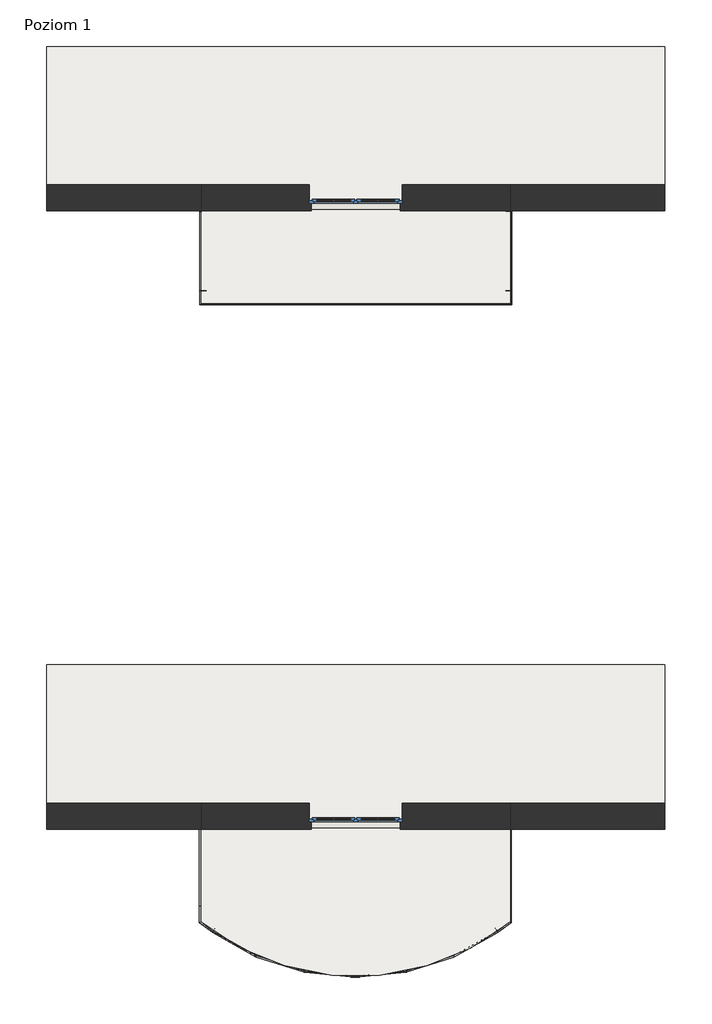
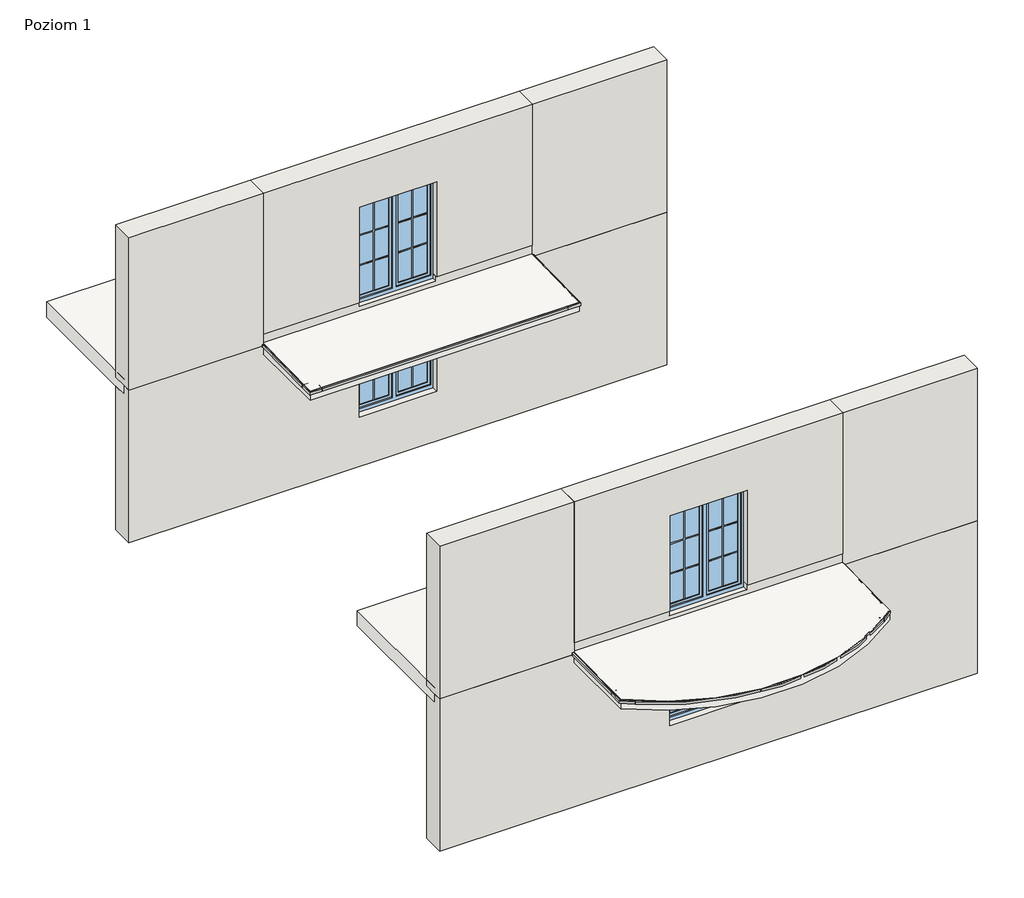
# One storey, part 1 of 4: 10 walls, 9 proxies, 4 slabs, 4 windows.
"""IFC4 building model written with IfcOpenShell, lengths in millimetres."""

from ifc_helpers import new_model, si_unit, frame, origin, place, context, project, spatial, circle_curve, ellipse_curve, faceted_brep, transform, mapped, element, save
from ifc_brep_helpers import plane_surface, cylinder_surface, advanced_brep
from components import generic_models_3133368d, generic_models_36d00aa6, k301_e0689195, k301_5b34aea1, k301_a9cddecb, k301_75ea2959, k301_849724ee, k301_899016ea, window_150x150_51b7f79a, window_150x200_12b14935

model = new_model("IFC4")

# Units and contexts
model_context = context("Model", 3, world=origin())
ifc_project = project(units=[si_unit("LENGTHUNIT", "METRE", prefix="MILLI")], contexts=[model_context])

# Site, building, storey
site = spatial("IfcSite", under=ifc_project)
building = spatial("IfcBuilding", under=site)
storey = spatial("IfcBuildingStorey", under=building, Name="Poziom 1", Elevation=0.0)

# Proxies
placement = place(None, origin())
generic_models_shape = generic_models_3133368d(model_context)
element("IfcBuildingElementProxy", 1, Name="Odbojniki - OPK301 : Odbojniki - OPK301", ObjectType="Odbojniki - OPK301 : Odbojniki - OPK301", at=placement, inside=storey, context=model_context, shape_type="MappedRepresentation", body=[
    mapped(generic_models_shape, transform((-114209.4276493, 46221.6670986, -138.1354372), x_axis=(0.0, -0.9998020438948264, -0.019896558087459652), y_axis=(1.0, 0.0, 0.0), z_axis=(0.0, -0.01989655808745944, 0.9998020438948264))),
])
element("IfcBuildingElementProxy", 2, Name="Odbojniki - OPK301 : Odbojniki - OPK301", ObjectType="Odbojniki - OPK301 : Odbojniki - OPK301", at=placement, inside=storey, context=model_context, shape_type="MappedRepresentation", body=[
    mapped(generic_models_shape, transform((-114217.7232393, 36230.897423, -137.1681948), x_axis=(-1.9590584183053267e-05, -0.9999247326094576, -0.01226901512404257), y_axis=(0.9999999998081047, -1.9589109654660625e-05, -2.403571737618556e-07), z_axis=(0.0, -0.012269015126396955, 0.9999247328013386))),
])
generic_models_2_shape = generic_models_36d00aa6(model_context)
element("IfcBuildingElementProxy", 3, Name="Odbojniki - OPK301 : Odbojniki - OPK301", ObjectType="Odbojniki - OPK301 : Odbojniki - OPK301", at=placement, inside=storey, context=model_context, shape_type="MappedRepresentation", body=[
    mapped(generic_models_2_shape, transform((-109225.3654711, 46226.7675737, -138.0339352), x_axis=(0.0, -0.9998020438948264, -0.01989655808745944), y_axis=(1.0, 0.0, 0.0), z_axis=(0.0, -0.01989655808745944, 0.9998020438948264))),
])
k301_shape = k301_e0689195(model_context)
element("IfcBuildingElementProxy", 4, Name="K301 Profil okapowy prosty : K301", ObjectType="K301 Profil okapowy prosty : K301", at=placement, inside=storey, context=model_context, shape_type="MappedRepresentation", body=[
    mapped(k301_shape, transform((-114216.6154711, 44731.2029699, -114.5998812), x_axis=(1.0, 0.0, 0.0), y_axis=(0.0, 0.9998020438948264, 0.01989655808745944), z_axis=(0.0, -0.01989655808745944, 0.9998020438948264))),
])
k301_2_shape = k301_5b34aea1(model_context)
element("IfcBuildingElementProxy", 5, Name="K301 Profil okapowy prosty : K301", ObjectType="K301 Profil okapowy prosty : K301", at=placement, inside=storey, context=model_context, shape_type="MappedRepresentation", body=[
    mapped(k301_2_shape, transform((-114218.1776493, 46220.6088802, -84.9599626), x_axis=(0.0, -0.9998020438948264, -0.019896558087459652), y_axis=(1.0, 0.0, 0.0), z_axis=(0.0, -0.01989655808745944, 0.9998020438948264))),
])
k301_3_shape = k301_a9cddecb(model_context)
element("IfcBuildingElementProxy", 6, Name="K301 Profil okapowy prosty : K301", ObjectType="K301 Profil okapowy prosty : K301", at=placement, inside=storey, context=model_context, shape_type="MappedRepresentation", body=[
    mapped(k301_3_shape, transform((-109216.6154711, 46225.7093553, -84.8584606), x_axis=(0.0, -0.9998020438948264, -0.01989655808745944), y_axis=(1.0, 0.0, 0.0), z_axis=(0.0, -0.01989655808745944, 0.9998020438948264))),
])
k301_4_shape = k301_75ea2959(model_context)
element("IfcBuildingElementProxy", 7, Name="K301 Profil okapowy prosty : K301", ObjectType="K301 Profil okapowy prosty : K301", at=placement, inside=storey, context=model_context, shape_type="MappedRepresentation", body=[
    mapped(k301_4_shape, transform((-114226.4732393, 36230.2450545, -83.9861928), x_axis=(-1.9590584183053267e-05, -0.9999247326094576, -0.01226901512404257), y_axis=(0.9999999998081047, -1.9589109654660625e-05, -2.403571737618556e-07), z_axis=(0.0, -0.012269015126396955, 0.9999247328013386))),
])
k301_5_shape = k301_849724ee(model_context)
element("IfcBuildingElementProxy", 8, Name="K301 Profil okapowy prosty : K301", ObjectType="K301 Profil okapowy prosty : K301", at=placement, inside=storey, context=model_context, shape_type="MappedRepresentation", body=[
    mapped(k301_5_shape, transform((-109227.8996711, 36230.2685935, -84.2807514), x_axis=(-0.00010422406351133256, -0.9999247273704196, -0.012269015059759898), y_axis=(0.9999999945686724, -0.00010421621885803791, -1.2787266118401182e-06), z_axis=(0.0, -0.012269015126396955, 0.9999247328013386))),
])
k301_6_shape = k301_899016ea(model_context)
element("IfcBuildingElementProxy", 9, Name="K301 Profil okapowy łukowy : K301", ObjectType="K301 Profil okapowy łukowy : K301", at=placement, inside=storey, context=model_context, shape_type="MappedRepresentation", body=[
    mapped(k301_6_shape, transform((-114227.6050845, 34731.1980807, -102.3054181), x_axis=(0.9999999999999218, 3.9556346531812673e-07, 4.853539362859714e-09), y_axis=(-3.955932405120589e-07, 0.9999247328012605, 0.012269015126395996), z_axis=(0.0, -0.012269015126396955, 0.9999247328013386))),
])

# Slabs
element("IfcSlab", 10, ObjectType="Balkon - posadzka ceramiczna", at=placement, inside=storey, context=model_context, shape_type="Brep", body=[
    faceted_brep([(-114218.1776493, 44731.191032, -290.0), (-114218.1776493, 46231.191032, -290.0), (-114218.1776493, 46339.191032, -290.0), (-109218.1776493, 46339.191032, -290.0), (-109218.1776493, 46231.191032, -290.0), (-109218.1776493, 44731.191032, -290.0), (-114218.1776493, 44731.191032, -114.0), (-114218.1776493, 46253.191032, -83.7114428), (-114218.1776493, 46339.191032, -82.0), (-114218.1776493, 46339.191032, -125.0), (-109218.1776493, 46339.191032, -82.0), (-109218.1776493, 46339.191032, -125.0), (-109218.1776493, 44731.191032, -114.0), (-109218.1776493, 46253.191032, -83.7114428)], [[[0, 1, 2, 3, 4, 5]], [[2, 1, 0, 6, 7, 8, 9]], [[3, 2, 9, 8, 10, 11]], [[0, 5, 12, 6]], [[5, 4, 3, 11, 10, 13, 12]], [[12, 13, 10, 8, 7, 6]]]),
])
element("IfcSlab", 11, ObjectType="Balkon - posadzka ceramiczna", at=placement, inside=storey, context=model_context, shape_type="AdvancedBrep", body=[
    advanced_brep(
    [(-114218.1776493, 36339.191032, -290.0), (-109218.1776493, 36339.191032, -290.0), (-109218.1776493, 36231.191032, -290.0), (-109218.1776493, 34731.191032, -290.0), (-114218.1776493, 34731.191032, -290.0), (-114218.1776493, 36231.191032, -290.0), (-114218.1776493, 36339.191032, -82.0), (-114218.1776493, 36339.191032, -125.0), (-114218.1776493, 34731.191032, -101.7300613), (-114218.1776493, 36253.191032, -83.0552147), (-109218.1776493, 36339.191032, -82.0), (-109218.1776493, 36339.191032, -125.0), (-109218.1776493, 36253.191032, -83.0552147), (-109218.1776493, 34731.191032, -101.7300613)],
    [
        (0, 1),
        (1, 2),
        (2, 3),
        (3, 4, circle_curve(frame((-111718.1776493, 37853.6900312, -290.0), z_axis=(0.0, 0.0, -1.0), x_axis=(1.0, 0.0, 0.0)), 4000.0)),
        (4, 5),
        (5, 0),
        (6, 7),
        (7, 0),
        (4, 8),
        (8, 9),
        (9, 6),
        (6, 10),
        (10, 11),
        (11, 1),
        (10, 12),
        (12, 13),
        (13, 3),
        (8, 13, ellipse_curve(frame((-111718.1776493, 37853.6900312, -63.4171902), z_axis=(0.0, -0.012269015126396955, 0.9999247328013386), x_axis=(0.0, -0.9999247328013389, -0.012269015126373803)), 4000.3010915, 4000.0)),
    ],
    [
        plane_surface(frame((-114218.1776493, 36339.191032, -290.0), z_axis=(0.0, 0.0, -1.0), x_axis=(0.0, 1.0, 0.0))),
        plane_surface(frame((-114218.1776493, 33731.191032, -290.0), z_axis=(-1.0, 0.0, 0.0), x_axis=(0.0, 0.0, 1.0))),
        plane_surface(frame((-114218.1776493, 36339.191032, -290.0), z_axis=(0.0, 1.0, 0.0), x_axis=(0.0, 0.0, 1.0))),
        plane_surface(frame((-109218.1776493, 36339.191032, -290.0), z_axis=(1.0, 0.0, 0.0), x_axis=(0.0, 0.0, 1.0))),
        plane_surface(frame((-111718.1776493, 35035.191032, -98.0), z_axis=(0.0, -0.012269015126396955, 0.9999247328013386), x_axis=(-1.0, 0.0, 0.0))),
        cylinder_surface(frame((-111718.1776493, 37853.6900312, -594.8), z_axis=(0.0, 0.0, -1.0), x_axis=(1.0, 0.0, 0.0)), 4000.0),
    ],
    [
        (0, [[1, 2, 3, 4, 5, 6]]),
        (1, [[7, 8, -6, -5, 9, 10, 11]]),
        (2, [[-1, -8, -7, 12, 13, 14]]),
        (3, [[-14, -13, 15, 16, 17, -3, -2]]),
        (4, [[-12, -11, -10, 18, -16, -15]]),
        (5, [[-4, -17, -18, -9]]),
    ],
),
])
element("IfcSlab", 12, ObjectType="Strop", at=placement, inside=storey, context=model_context, shape_type="Brep", body=[
    faceted_brep([(-106718.1776493, 46386.191032, -300.0), (-116718.1776493, 46386.191032, -300.0), (-116718.1776493, 46651.191032, -300.0), (-116718.1776493, 48886.191032, -300.0), (-106718.1776493, 48886.191032, -300.0), (-106718.1776493, 46651.191032, -300.0), (-106718.1776493, 46386.191032, 0.0), (-106718.1776493, 48886.191032, 0.0), (-116718.1776493, 48886.191032, 0.0), (-116718.1776493, 46386.191032, 0.0), (-114218.1776493, 46386.191032, 0.0), (-112468.1776493, 46386.191032, 0.0), (-110968.1776493, 46386.191032, 0.0), (-109218.1776493, 46386.191032, 0.0), (-106718.1776493, 46386.191032, -125.0), (-116718.1776493, 46386.191032, -125.0)], [[[0, 1, 2, 3, 4, 5]], [[6, 7, 8, 9, 10, 11, 12, 13]], [[1, 0, 14, 6, 13, 12, 11, 10, 9, 15]], [[3, 2, 1, 15, 9, 8]], [[4, 3, 8, 7]], [[0, 5, 4, 7, 6, 14]]]),
])
element("IfcSlab", 13, ObjectType="Strop", at=placement, inside=storey, context=model_context, shape_type="Brep", body=[
    faceted_brep([(-106718.1776493, 36386.191032, -300.0), (-116718.1776493, 36386.191032, -300.0), (-116718.1776493, 36651.191032, -300.0), (-116718.1776493, 38886.191032, -300.0), (-106718.1776493, 38886.191032, -300.0), (-106718.1776493, 36651.191032, -300.0), (-106718.1776493, 36386.191032, 0.0), (-106718.1776493, 38886.191032, 0.0), (-116718.1776493, 38886.191032, 0.0), (-116718.1776493, 36386.191032, 0.0), (-114218.1776493, 36386.191032, 0.0), (-112468.1776493, 36386.191032, 0.0), (-110968.1776493, 36386.191032, 0.0), (-109218.1776493, 36386.191032, 0.0), (-106718.1776493, 36386.191032, -125.0), (-116718.1776493, 36386.191032, -125.0)], [[[0, 1, 2, 3, 4, 5]], [[6, 7, 8, 9, 10, 11, 12, 13]], [[1, 0, 14, 6, 13, 12, 11, 10, 9, 15]], [[3, 2, 1, 15, 9, 8]], [[4, 3, 8, 7]], [[0, 5, 4, 7, 6, 14]]]),
])

# Walls
element("IfcWall", 14, ObjectType="Porotherm P+W 25 + o15 + t", at=placement, inside=storey, context=model_context, shape_type="Brep", body=[
    faceted_brep([(-116718.1776493, 46231.191032, -3125.0), (-106718.1776493, 46231.191032, -3125.0), (-106718.1776493, 46231.191032, -125.0), (-109218.1776493, 46231.191032, -125.0), (-109218.1776493, 46231.191032, -290.0), (-114218.1776493, 46231.191032, -290.0), (-114218.1776493, 46231.191032, -125.0), (-116718.1776493, 46231.191032, -125.0), (-110998.1776493, 46231.191032, -680.0), (-110998.1776493, 46231.191032, -2150.0), (-112438.1776493, 46231.191032, -2150.0), (-112438.1776493, 46231.191032, -680.0), (-106718.1776493, 46651.191032, -3125.0), (-116718.1776493, 46651.191032, -3125.0), (-116718.1776493, 46651.191032, -300.0), (-106718.1776493, 46651.191032, -300.0), (-110968.1776493, 46651.191032, -2150.0), (-110968.1776493, 46651.191032, -650.0), (-112468.1776493, 46651.191032, -650.0), (-112468.1776493, 46651.191032, -2150.0), (-106718.1776493, 46386.191032, -300.0), (-106718.1776493, 46386.191032, -125.0), (-109218.1776493, 46386.191032, -125.0), (-114218.1776493, 46386.191032, -125.0), (-116718.1776493, 46386.191032, -125.0), (-114218.1776493, 46339.191032, -125.0), (-109218.1776493, 46339.191032, -125.0), (-116718.1776493, 46386.191032, -300.0), (-110968.1776493, 46351.191032, -650.0), (-110968.1776493, 46351.191032, -2150.0), (-110998.1776493, 46351.191032, -680.0), (-110998.1776493, 46351.191032, -2150.0), (-109218.1776493, 46339.191032, -290.0), (-114218.1776493, 46339.191032, -290.0), (-112468.1776493, 46351.191032, -650.0), (-112468.1776493, 46351.191032, -2150.0), (-112438.1776493, 46351.191032, -2150.0), (-112438.1776493, 46351.191032, -680.0)], [[[0, 1, 2, 3, 4, 5, 6, 7], [8, 9, 10, 11]], [[12, 13, 14, 15], [16, 17, 18, 19]], [[1, 0, 13, 12]], [[2, 1, 12, 15, 20, 21]], [[2, 21, 22, 23, 24, 7, 6, 25, 26, 3]], [[0, 7, 24, 27, 14, 13]], [[28, 17, 16, 29]], [[8, 30, 31, 9]], [[27, 20, 15, 14]], [[20, 27, 24, 23, 22, 21]], [[32, 33, 5, 4]], [[5, 33, 25, 6]], [[33, 32, 26, 25]], [[32, 4, 3, 26]], [[17, 28, 34, 18]], [[29, 16, 19, 35, 36, 10, 9, 31]], [[34, 28, 29, 31, 30, 37, 36, 35]], [[34, 35, 19, 18]], [[30, 8, 11, 37]], [[10, 36, 37, 11]]]),
])
element("IfcWall", 15, ObjectType="Porotherm P+W 25 + o15 + t", at=placement, inside=storey, context=model_context, shape_type="Brep", body=[
    faceted_brep([(-116718.1776493, 46231.191032, -125.0), (-114218.1776493, 46231.191032, -125.0), (-114218.1776493, 46231.191032, 100.0), (-114218.1776493, 46231.191032, 2875.0), (-116718.1776493, 46231.191032, 2875.0), (-116718.1776493, 46651.191032, -125.0), (-116718.1776493, 46651.191032, 2875.0), (-114218.1776493, 46651.191032, 2875.0), (-114218.1776493, 46651.191032, 100.0), (-114218.1776493, 46651.191032, 0.0), (-114218.1776493, 46651.191032, -125.0), (-116718.1776493, 46386.191032, -125.0), (-114218.1776493, 46386.191032, -125.0), (-114218.1776493, 46339.191032, -125.0)], [[[0, 1, 2, 3, 4]], [[5, 6, 7, 8, 9, 10]], [[1, 0, 11, 5, 10, 12, 13]], [[4, 3, 7, 6]], [[0, 4, 6, 5, 11]], [[1, 13, 12, 10, 9, 8, 7, 3, 2]]]),
])
element("IfcWall", 16, ObjectType="Porotherm P+W 25 + o15 + t", at=placement, inside=storey, context=model_context, shape_type="Brep", body=[
    faceted_brep([(-109218.1776493, 46231.191032, 2875.0), (-109218.1776493, 46231.191032, 100.0), (-109218.1776493, 46231.191032, -125.0), (-106718.1776493, 46231.191032, -125.0), (-106718.1776493, 46231.191032, 2875.0), (-109218.1776493, 46651.191032, -125.0), (-109218.1776493, 46651.191032, 0.0), (-109218.1776493, 46651.191032, 100.0), (-109218.1776493, 46651.191032, 2875.0), (-106718.1776493, 46651.191032, 2875.0), (-106718.1776493, 46651.191032, -125.0), (-109218.1776493, 46339.191032, -125.0), (-109218.1776493, 46386.191032, -125.0), (-106718.1776493, 46386.191032, -125.0)], [[[0, 1, 2, 3, 4]], [[5, 6, 7, 8, 9, 10]], [[3, 2, 11, 12, 5, 10, 13]], [[4, 3, 13, 10, 9]], [[0, 4, 9, 8]], [[0, 8, 7, 6, 5, 12, 11, 2, 1]]]),
])
element("IfcWall", 17, ObjectType="Porotherm P+W 25 + o12 + pł ceramiczne", at=placement, inside=storey, context=model_context, shape_type="Brep", body=[
    faceted_brep([(-109218.1776493, 46253.191032, 100.0), (-110998.1776493, 46253.191032, 100.0), (-110998.1776493, 46253.191032, 0.0), (-112438.1776493, 46253.191032, 0.0), (-112438.1776493, 46253.191032, 100.0), (-114218.1776493, 46253.191032, 100.0), (-114218.1776493, 46253.191032, -83.7114428), (-109218.1776493, 46253.191032, -83.7114428), (-114218.1776493, 46651.191032, 0.0), (-114218.1776493, 46651.191032, 100.0), (-112468.1776493, 46651.191032, 100.0), (-112468.1776493, 46651.191032, 0.0), (-109218.1776493, 46651.191032, 100.0), (-109218.1776493, 46651.191032, 0.0), (-110968.1776493, 46651.191032, 0.0), (-110968.1776493, 46651.191032, 100.0), (-114218.1776493, 46386.191032, -125.0), (-109218.1776493, 46386.191032, -125.0), (-109218.1776493, 46339.191032, -125.0), (-114218.1776493, 46339.191032, -125.0), (-109218.1776493, 46339.191032, -82.0), (-109218.1776493, 46386.191032, 0.0), (-110968.1776493, 46351.191032, 100.0), (-110998.1776493, 46351.191032, 100.0), (-112438.1776493, 46351.191032, 100.0), (-112468.1776493, 46351.191032, 100.0), (-114218.1776493, 46386.191032, 0.0), (-114218.1776493, 46339.191032, -82.0), (-112468.1776493, 46386.191032, 0.0), (-110968.1776493, 46386.191032, 0.0), (-112468.1776493, 46351.191032, 0.0), (-112438.1776493, 46351.191032, 0.0), (-110998.1776493, 46351.191032, 0.0), (-110968.1776493, 46351.191032, 0.0)], [[[0, 1, 2, 3, 4, 5, 6, 7]], [[8, 9, 10, 11]], [[12, 13, 14, 15]], [[16, 17, 18, 19]], [[12, 0, 7, 20, 18, 17, 21, 13]], [[0, 12, 15, 22, 23, 1]], [[9, 5, 4, 24, 25, 10]], [[5, 9, 8, 26, 16, 19, 27, 6]], [[8, 11, 28, 26]], [[13, 21, 29, 14]], [[17, 16, 26, 28, 29, 21]], [[20, 27, 19, 18]], [[27, 20, 7, 6]], [[30, 31, 3, 2, 32, 33, 29, 28]], [[31, 30, 25, 24]], [[33, 32, 23, 22]], [[33, 22, 15, 14, 29]], [[25, 30, 28, 11, 10]], [[32, 2, 1, 23]], [[3, 31, 24, 4]]]),
])
element("IfcWall", 18, ObjectType="Porotherm P+W 25 + o15 + t", at=placement, inside=storey, context=model_context, shape_type="Brep", body=[
    faceted_brep([(-109218.1776493, 46231.191032, 100.0), (-109218.1776493, 46231.191032, 2875.0), (-114218.1776493, 46231.191032, 2875.0), (-114218.1776493, 46231.191032, 100.0), (-112438.1776493, 46231.191032, 100.0), (-112438.1776493, 46231.191032, 1970.0), (-110998.1776493, 46231.191032, 1970.0), (-110998.1776493, 46231.191032, 100.0), (-109218.1776493, 46651.191032, 2875.0), (-109218.1776493, 46651.191032, 100.0), (-110968.1776493, 46651.191032, 100.0), (-110968.1776493, 46651.191032, 2000.0), (-112468.1776493, 46651.191032, 2000.0), (-112468.1776493, 46651.191032, 100.0), (-114218.1776493, 46651.191032, 100.0), (-114218.1776493, 46651.191032, 2875.0), (-114218.1776493, 46253.191032, 100.0), (-112468.1776493, 46351.191032, 100.0), (-112438.1776493, 46351.191032, 100.0), (-112438.1776493, 46253.191032, 100.0), (-109218.1776493, 46253.191032, 100.0), (-110998.1776493, 46253.191032, 100.0), (-110998.1776493, 46351.191032, 100.0), (-110968.1776493, 46351.191032, 100.0), (-110968.1776493, 46351.191032, 2000.0), (-110998.1776493, 46351.191032, 1970.0), (-112468.1776493, 46351.191032, 2000.0), (-112438.1776493, 46351.191032, 1970.0)], [[[0, 1, 2, 3, 4, 5, 6, 7]], [[8, 9, 10, 11, 12, 13, 14, 15]], [[3, 16, 14, 13, 17, 18, 19, 4]], [[9, 20, 0, 7, 21, 22, 23, 10]], [[1, 0, 20, 9, 8]], [[2, 1, 8, 15]], [[3, 2, 15, 14, 16]], [[24, 11, 10, 23]], [[6, 25, 22, 21, 7]], [[26, 12, 11, 24]], [[26, 24, 23, 22, 25, 27, 18, 17]], [[12, 26, 17, 13]], [[27, 25, 6, 5]], [[27, 5, 4, 19, 18]]]),
])
element("IfcWall", 19, ObjectType="Porotherm P+W 25 + o15 + t", at=placement, inside=storey, context=model_context, shape_type="Brep", body=[
    faceted_brep([(-116718.1776493, 36231.191032, -3125.0), (-106718.1776493, 36231.191032, -3125.0), (-106718.1776493, 36231.191032, -125.0), (-109218.1776493, 36231.191032, -125.0), (-109218.1776493, 36231.191032, -290.0), (-114218.1776493, 36231.191032, -290.0), (-114218.1776493, 36231.191032, -125.0), (-116718.1776493, 36231.191032, -125.0), (-110998.1776493, 36231.191032, -680.0), (-110998.1776493, 36231.191032, -2150.0), (-112438.1776493, 36231.191032, -2150.0), (-112438.1776493, 36231.191032, -680.0), (-106718.1776493, 36651.191032, -3125.0), (-116718.1776493, 36651.191032, -3125.0), (-116718.1776493, 36651.191032, -300.0), (-106718.1776493, 36651.191032, -300.0), (-110968.1776493, 36651.191032, -2150.0), (-110968.1776493, 36651.191032, -650.0), (-112468.1776493, 36651.191032, -650.0), (-112468.1776493, 36651.191032, -2150.0), (-106718.1776493, 36386.191032, -300.0), (-106718.1776493, 36386.191032, -125.0), (-109218.1776493, 36386.191032, -125.0), (-114218.1776493, 36386.191032, -125.0), (-116718.1776493, 36386.191032, -125.0), (-114218.1776493, 36339.191032, -125.0), (-109218.1776493, 36339.191032, -125.0), (-116718.1776493, 36386.191032, -300.0), (-110968.1776493, 36351.191032, -650.0), (-110968.1776493, 36351.191032, -2150.0), (-110998.1776493, 36351.191032, -680.0), (-110998.1776493, 36351.191032, -2150.0), (-109218.1776493, 36339.191032, -290.0), (-114218.1776493, 36339.191032, -290.0), (-112468.1776493, 36351.191032, -650.0), (-112468.1776493, 36351.191032, -2150.0), (-112438.1776493, 36351.191032, -2150.0), (-112438.1776493, 36351.191032, -680.0)], [[[0, 1, 2, 3, 4, 5, 6, 7], [8, 9, 10, 11]], [[12, 13, 14, 15], [16, 17, 18, 19]], [[1, 0, 13, 12]], [[2, 1, 12, 15, 20, 21]], [[2, 21, 22, 23, 24, 7, 6, 25, 26, 3]], [[0, 7, 24, 27, 14, 13]], [[28, 17, 16, 29]], [[8, 30, 31, 9]], [[27, 20, 15, 14]], [[20, 27, 24, 23, 22, 21]], [[32, 33, 5, 4]], [[5, 33, 25, 6]], [[33, 32, 26, 25]], [[32, 4, 3, 26]], [[17, 28, 34, 18]], [[29, 16, 19, 35, 36, 10, 9, 31]], [[34, 28, 29, 31, 30, 37, 36, 35]], [[34, 35, 19, 18]], [[30, 8, 11, 37]], [[10, 36, 37, 11]]]),
])
element("IfcWall", 20, ObjectType="Porotherm P+W 25 + o15 + t", at=placement, inside=storey, context=model_context, shape_type="Brep", body=[
    faceted_brep([(-116718.1776493, 36231.191032, -125.0), (-114218.1776493, 36231.191032, -125.0), (-114218.1776493, 36231.191032, 100.0), (-114218.1776493, 36231.191032, 2875.0), (-116718.1776493, 36231.191032, 2875.0), (-116718.1776493, 36651.191032, -125.0), (-116718.1776493, 36651.191032, 2875.0), (-114218.1776493, 36651.191032, 2875.0), (-114218.1776493, 36651.191032, 100.0), (-114218.1776493, 36651.191032, 0.0), (-114218.1776493, 36651.191032, -125.0), (-116718.1776493, 36386.191032, -125.0), (-114218.1776493, 36386.191032, -125.0), (-114218.1776493, 36339.191032, -125.0)], [[[0, 1, 2, 3, 4]], [[5, 6, 7, 8, 9, 10]], [[1, 0, 11, 5, 10, 12, 13]], [[4, 3, 7, 6]], [[0, 4, 6, 5, 11]], [[1, 13, 12, 10, 9, 8, 7, 3, 2]]]),
])
element("IfcWall", 21, ObjectType="Porotherm P+W 25 + o15 + t", at=placement, inside=storey, context=model_context, shape_type="Brep", body=[
    faceted_brep([(-109218.1776493, 36231.191032, 2875.0), (-109218.1776493, 36231.191032, 100.0), (-109218.1776493, 36231.191032, -125.0), (-106718.1776493, 36231.191032, -125.0), (-106718.1776493, 36231.191032, 2875.0), (-109218.1776493, 36651.191032, -125.0), (-109218.1776493, 36651.191032, 0.0), (-109218.1776493, 36651.191032, 100.0), (-109218.1776493, 36651.191032, 2875.0), (-106718.1776493, 36651.191032, 2875.0), (-106718.1776493, 36651.191032, -125.0), (-109218.1776493, 36339.191032, -125.0), (-109218.1776493, 36386.191032, -125.0), (-106718.1776493, 36386.191032, -125.0)], [[[0, 1, 2, 3, 4]], [[5, 6, 7, 8, 9, 10]], [[3, 2, 11, 12, 5, 10, 13]], [[4, 3, 13, 10, 9]], [[0, 4, 9, 8]], [[0, 8, 7, 6, 5, 12, 11, 2, 1]]]),
])
element("IfcWall", 22, ObjectType="Porotherm P+W 25 + o12 + pł ceramiczne", at=placement, inside=storey, context=model_context, shape_type="Brep", body=[
    faceted_brep([(-109218.1776493, 36253.191032, 100.0), (-110998.1776493, 36253.191032, 100.0), (-110998.1776493, 36253.191032, 0.0), (-112438.1776493, 36253.191032, 0.0), (-112438.1776493, 36253.191032, 100.0), (-114218.1776493, 36253.191032, 100.0), (-114218.1776493, 36253.191032, -83.0552147), (-109218.1776493, 36253.191032, -83.0552147), (-109218.1776493, 36651.191032, 100.0), (-109218.1776493, 36651.191032, 0.0), (-110968.1776493, 36651.191032, 0.0), (-110968.1776493, 36651.191032, 100.0), (-114218.1776493, 36651.191032, 0.0), (-114218.1776493, 36651.191032, 100.0), (-112468.1776493, 36651.191032, 100.0), (-112468.1776493, 36651.191032, 0.0), (-114218.1776493, 36386.191032, -125.0), (-109218.1776493, 36386.191032, -125.0), (-109218.1776493, 36339.191032, -125.0), (-114218.1776493, 36339.191032, -125.0), (-109218.1776493, 36339.191032, -82.0), (-109218.1776493, 36386.191032, 0.0), (-110968.1776493, 36351.191032, 100.0), (-110998.1776493, 36351.191032, 100.0), (-112438.1776493, 36351.191032, 100.0), (-112468.1776493, 36351.191032, 100.0), (-114218.1776493, 36386.191032, 0.0), (-114218.1776493, 36339.191032, -82.0), (-112468.1776493, 36386.191032, 0.0), (-110968.1776493, 36386.191032, 0.0), (-112468.1776493, 36351.191032, 0.0), (-112438.1776493, 36351.191032, 0.0), (-110998.1776493, 36351.191032, 0.0), (-110968.1776493, 36351.191032, 0.0)], [[[0, 1, 2, 3, 4, 5, 6, 7]], [[8, 9, 10, 11]], [[12, 13, 14, 15]], [[16, 17, 18, 19]], [[8, 0, 7, 20, 18, 17, 21, 9]], [[0, 8, 11, 22, 23, 1]], [[13, 5, 4, 24, 25, 14]], [[5, 13, 12, 26, 16, 19, 27, 6]], [[12, 15, 28, 26]], [[9, 21, 29, 10]], [[17, 16, 26, 28, 29, 21]], [[20, 27, 19, 18]], [[27, 20, 7, 6]], [[30, 31, 3, 2, 32, 33, 29, 28]], [[31, 30, 25, 24]], [[33, 32, 23, 22]], [[33, 22, 11, 10, 29]], [[25, 30, 28, 15, 14]], [[32, 2, 1, 23]], [[3, 31, 24, 4]]]),
])
element("IfcWall", 23, ObjectType="Porotherm P+W 25 + o15 + t", at=placement, inside=storey, context=model_context, shape_type="Brep", body=[
    faceted_brep([(-109218.1776493, 36231.191032, 100.0), (-109218.1776493, 36231.191032, 2875.0), (-114218.1776493, 36231.191032, 2875.0), (-114218.1776493, 36231.191032, 100.0), (-112438.1776493, 36231.191032, 100.0), (-112438.1776493, 36231.191032, 1970.0), (-110998.1776493, 36231.191032, 1970.0), (-110998.1776493, 36231.191032, 100.0), (-109218.1776493, 36651.191032, 2875.0), (-109218.1776493, 36651.191032, 100.0), (-110968.1776493, 36651.191032, 100.0), (-110968.1776493, 36651.191032, 2000.0), (-112468.1776493, 36651.191032, 2000.0), (-112468.1776493, 36651.191032, 100.0), (-114218.1776493, 36651.191032, 100.0), (-114218.1776493, 36651.191032, 2875.0), (-114218.1776493, 36253.191032, 100.0), (-112468.1776493, 36351.191032, 100.0), (-112438.1776493, 36351.191032, 100.0), (-112438.1776493, 36253.191032, 100.0), (-109218.1776493, 36253.191032, 100.0), (-110998.1776493, 36253.191032, 100.0), (-110998.1776493, 36351.191032, 100.0), (-110968.1776493, 36351.191032, 100.0), (-110968.1776493, 36351.191032, 2000.0), (-110998.1776493, 36351.191032, 1970.0), (-112468.1776493, 36351.191032, 2000.0), (-112438.1776493, 36351.191032, 1970.0)], [[[0, 1, 2, 3, 4, 5, 6, 7]], [[8, 9, 10, 11, 12, 13, 14, 15]], [[3, 16, 14, 13, 17, 18, 19, 4]], [[9, 20, 0, 7, 21, 22, 23, 10]], [[1, 0, 20, 9, 8]], [[2, 1, 8, 15]], [[3, 2, 15, 14, 16]], [[24, 11, 10, 23]], [[6, 25, 22, 21, 7]], [[26, 12, 11, 24]], [[26, 24, 23, 22, 25, 27, 18, 17]], [[12, 26, 17, 13]], [[27, 25, 6, 5]], [[27, 5, 4, 19, 18]]]),
])

# Windows
window_150x150_shape = window_150x150_51b7f79a(model_context)
element("IfcWindow", 24, ObjectType="OKNO_2X_W_SZ : 150x150", at=placement, inside=storey, context=model_context, shape_type="MappedRepresentation", body=[
    mapped(window_150x150_shape, transform((-111718.1776493, 46441.191032, -3000.0), x_axis=(-1.0, 0.0, 0.0), y_axis=(0.0, -1.0, 0.0), z_axis=(0.0, 0.0, 1.0))),
])
element("IfcWindow", 25, ObjectType="OKNO_2X_W_SZ : 150x150", at=placement, inside=storey, context=model_context, shape_type="MappedRepresentation", body=[
    mapped(window_150x150_shape, transform((-111718.1776493, 36441.191032, -3000.0), x_axis=(-1.0, 0.0, 0.0), y_axis=(0.0, -1.0, 0.0), z_axis=(0.0, 0.0, 1.0))),
])
window_150x200_shape = window_150x200_12b14935(model_context)
element("IfcWindow", 26, ObjectType="OKNO_2X_W_SZ : 150x200", at=placement, inside=storey, context=model_context, shape_type="MappedRepresentation", body=[
    mapped(window_150x200_shape, transform((-111718.1776493, 46441.191032, -850.0), x_axis=(-1.0, 0.0, 0.0), y_axis=(0.0, -1.0, 0.0), z_axis=(0.0, 0.0, 1.0))),
])
element("IfcWindow", 27, ObjectType="OKNO_2X_W_SZ : 150x200", at=placement, inside=storey, context=model_context, shape_type="MappedRepresentation", body=[
    mapped(window_150x200_shape, transform((-111718.1776493, 36441.191032, -850.0), x_axis=(-1.0, 0.0, 0.0), y_axis=(0.0, -1.0, 0.0), z_axis=(0.0, 0.0, 1.0))),
])

save(model, "model.ifc")
